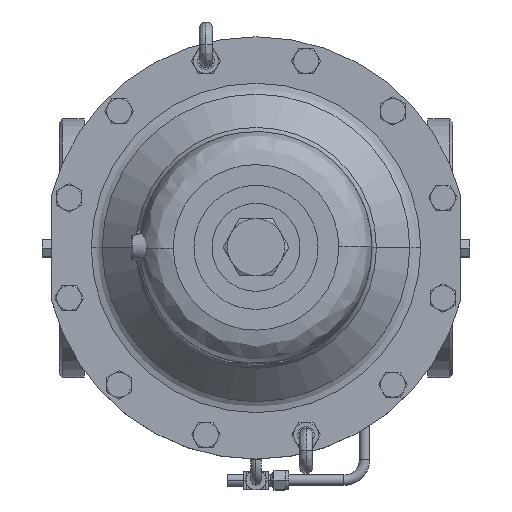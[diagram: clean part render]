
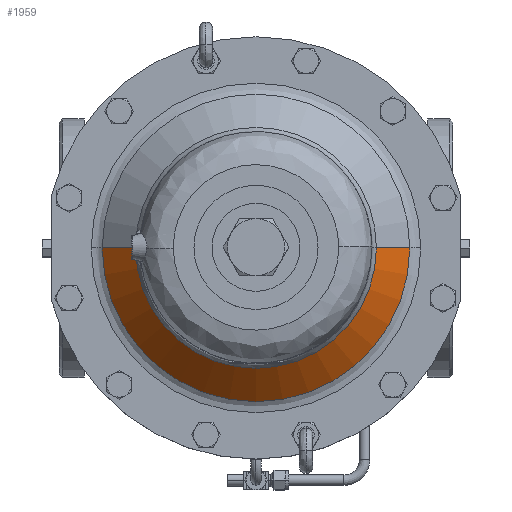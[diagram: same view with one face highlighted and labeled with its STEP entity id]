
A CAD part, top view. The second image highlights one B-rep face of the part: STEP entity #1959.
In plain terms, the highlighted free-form (B-spline) face has degree [2, 1] with [5, 2] control points.
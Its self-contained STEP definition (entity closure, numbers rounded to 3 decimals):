
#1959=ADVANCED_FACE('',(#7083),#7082,.T.);
#7082=( BOUNDED_SURFACE() B_SPLINE_SURFACE( 2,1,((#14319,#14320),(#14321,#14322),(#14323,#14324),(#14325,#14326),(#14327,#14328)), .UNSPECIFIED.,.F.,.F.,.F.) B_SPLINE_SURFACE_WITH_KNOTS((3,2,3),(2,2),(0.,0.5,1.),(0.,1.), .UNSPECIFIED. ) GEOMETRIC_REPRESENTATION_ITEM() RATIONAL_B_SPLINE_SURFACE(((1.,1.),(0.707,0.707),(1.,1.),(0.707,0.707),(1.,1.))) REPRESENTATION_ITEM('') SURFACE() );
#7083=FACE_OUTER_BOUND('',#14329,.T.);
#14319=CARTESIAN_POINT('',(0.,0.,186.971));
#14320=CARTESIAN_POINT('',(210.12,0.,-23.149));
#14321=CARTESIAN_POINT('',(0.,0.,186.971));
#14322=CARTESIAN_POINT('',(210.12,-210.12,-23.149));
#14323=CARTESIAN_POINT('',(0.,0.,186.971));
#14324=CARTESIAN_POINT('',(0.,-210.12,-23.149));
#14325=CARTESIAN_POINT('',(0.,0.,186.971));
#14326=CARTESIAN_POINT('',(-210.12,-210.12,-23.149));
#14327=CARTESIAN_POINT('',(0.,0.,186.971));
#14328=CARTESIAN_POINT('',(-210.12,0.,-23.149));
#14329=EDGE_LOOP('',(#17881,#17882,#17883,#17884));
#17881=ORIENTED_EDGE('',*,*,#19739,.T.);
#17882=ORIENTED_EDGE('',*,*,#19736,.T.);
#17883=ORIENTED_EDGE('',*,*,#19735,.F.);
#17884=ORIENTED_EDGE('',*,*,#19738,.F.);
#19735=EDGE_CURVE('',#28382,#28375,#28395,.T.);
#19736=EDGE_CURVE('',#28401,#28375,#28402,.T.);
#19738=EDGE_CURVE('',#28408,#28382,#28415,.T.);
#19739=EDGE_CURVE('',#28408,#28401,#28421,.T.);
#28375=VERTEX_POINT('',#37208);
#28382=VERTEX_POINT('',#37212);
#28395=CIRCLE('',#37223,148.577);
#28401=VERTEX_POINT('',#37224);
#28402=(BOUNDED_CURVE() B_SPLINE_CURVE(1,(#37225,#37226),.UNSPECIFIED.,.F.,.F.) B_SPLINE_CURVE_WITH_KNOTS((2,2),(0.554,0.707),.UNSPECIFIED.) CURVE() GEOMETRIC_REPRESENTATION_ITEM() RATIONAL_B_SPLINE_CURVE((1.,1.)) REPRESENTATION_ITEM('') );
#28408=VERTEX_POINT('',#37227);
#28415=(BOUNDED_CURVE() B_SPLINE_CURVE(1,(#37232,#37233),.UNSPECIFIED.,.F.,.F.) B_SPLINE_CURVE_WITH_KNOTS((2,2),(0.554,0.707),.UNSPECIFIED.) CURVE() GEOMETRIC_REPRESENTATION_ITEM() RATIONAL_B_SPLINE_CURVE((0.75,0.75)) REPRESENTATION_ITEM('') );
#28421=CIRCLE('',#37237,116.393);
#37208=CARTESIAN_POINT('',(-148.577,0.,38.393));
#37212=CARTESIAN_POINT('',(148.577,0.,38.393));
#37220=CARTESIAN_POINT('',(0.,0.,38.393));
#37221=DIRECTION('',(0.,0.,-1.));
#37222=DIRECTION('',(-1.,0.,0.));
#37223=AXIS2_PLACEMENT_3D('',#37220,#37221,#37222);
#37224=CARTESIAN_POINT('',(-116.393,0.,70.577));
#37225=CARTESIAN_POINT('',(-116.393,0.,70.577));
#37226=CARTESIAN_POINT('',(-148.577,0.,38.393));
#37227=CARTESIAN_POINT('',(116.393,0.,70.577));
#37232=CARTESIAN_POINT('',(116.393,0.,70.577));
#37233=CARTESIAN_POINT('',(148.577,0.,38.393));
#37234=CARTESIAN_POINT('',(0.,0.,70.577));
#37235=DIRECTION('',(0.,0.,-1.));
#37236=DIRECTION('',(-1.,0.,0.));
#37237=AXIS2_PLACEMENT_3D('',#37234,#37235,#37236);
